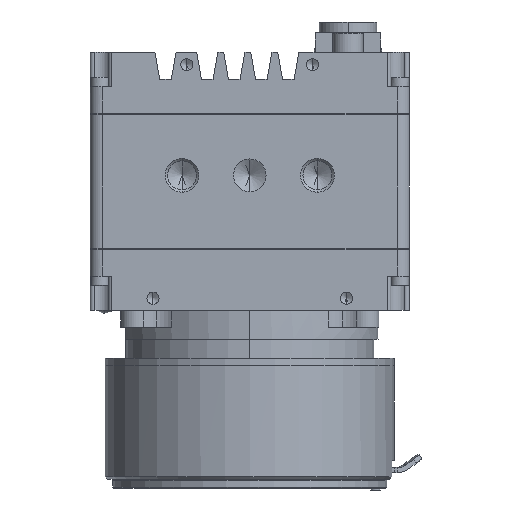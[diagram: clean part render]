
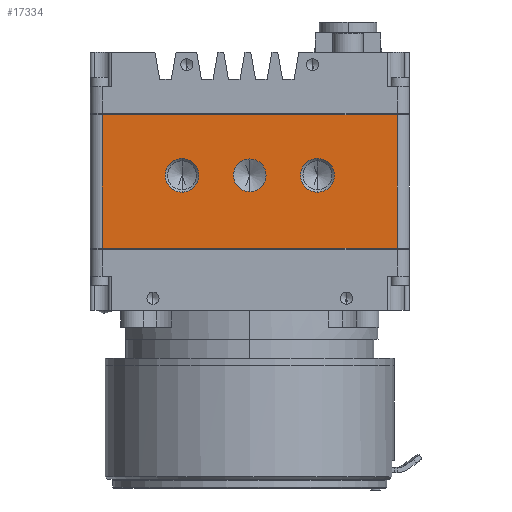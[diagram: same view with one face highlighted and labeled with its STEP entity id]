
A CAD part, front view. The second image highlights one B-rep face of the part: STEP entity #17334.
In plain terms, the highlighted planar face has unit normal (0, -1, 0).
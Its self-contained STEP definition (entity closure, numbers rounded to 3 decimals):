
#263 = DIRECTION ( 'NONE',  ( 0., 0., -1. ) ) ;
#671 = CARTESIAN_POINT ( 'NONE',  ( -30.48, -26.67, -27.813 ) ) ;
#704 = AXIS2_PLACEMENT_3D ( 'NONE', #1797, #1414, #5685 ) ;
#865 = CARTESIAN_POINT ( 'NONE',  ( 30.48, -26.67, -27.813 ) ) ;
#1337 = VECTOR ( 'NONE', #12713, 1000. ) ;
#1414 = DIRECTION ( 'NONE',  ( 0., -1., 0. ) ) ;
#1526 = EDGE_CURVE ( 'NONE', #19701, #24331, #6980, .T. ) ;
#1650 = DIRECTION ( 'NONE',  ( 0., 0., -1. ) ) ;
#1797 = CARTESIAN_POINT ( 'NONE',  ( 14., -26.67, -12.7 ) ) ;
#1988 = CIRCLE ( 'NONE', #3744, 3.5 ) ;
#2313 = CARTESIAN_POINT ( 'NONE',  ( -30.48, -26.67, -27.813 ) ) ;
#2556 = EDGE_CURVE ( 'NONE', #21562, #15502, #12477, .T. ) ;
#3744 = AXIS2_PLACEMENT_3D ( 'NONE', #12567, #27420, #14674 ) ;
#3810 = CARTESIAN_POINT ( 'NONE',  ( 14., -26.67, -9.2 ) ) ;
#4215 = DIRECTION ( 'NONE',  ( 0., 1., 0. ) ) ;
#4849 = LINE ( 'NONE', #2313, #26723 ) ;
#5224 = ORIENTED_EDGE ( 'NONE', *, *, #22664, .F. ) ;
#5685 = DIRECTION ( 'NONE',  ( 0., 0., -1. ) ) ;
#5755 = AXIS2_PLACEMENT_3D ( 'NONE', #10905, #23953, #263 ) ;
#5920 = CARTESIAN_POINT ( 'NONE',  ( -14., -26.67, -12.7 ) ) ;
#6021 = EDGE_CURVE ( 'NONE', #18173, #12819, #21576, .T. ) ;
#6623 = FACE_BOUND ( 'NONE', #22164, .T. ) ;
#6813 = AXIS2_PLACEMENT_3D ( 'NONE', #16346, #18202, #14114 ) ;
#6819 = EDGE_CURVE ( 'NONE', #24755, #23820, #13689, .T. ) ;
#6980 = LINE ( 'NONE', #14558, #1337 ) ;
#7040 = CARTESIAN_POINT ( 'NONE',  ( -30.48, -26.67, -0.127 ) ) ;
#7103 = VERTEX_POINT ( 'NONE', #16012 ) ;
#7118 = ORIENTED_EDGE ( 'NONE', *, *, #20341, .T. ) ;
#7809 = EDGE_LOOP ( 'NONE', ( #7118, #24861, #26505, #12846 ) ) ;
#8192 = EDGE_LOOP ( 'NONE', ( #5224, #21452 ) ) ;
#8579 = ORIENTED_EDGE ( 'NONE', *, *, #21310, .F. ) ;
#8584 = CARTESIAN_POINT ( 'NONE',  ( -14., -26.67, -9.2 ) ) ;
#9876 = CIRCLE ( 'NONE', #6813, 3.378 ) ;
#10866 = ORIENTED_EDGE ( 'NONE', *, *, #6021, .F. ) ;
#10905 = CARTESIAN_POINT ( 'NONE',  ( 0., -26.67, -12.7 ) ) ;
#12418 = DIRECTION ( 'NONE',  ( 0., 0., 1. ) ) ;
#12477 = LINE ( 'NONE', #24922, #25082 ) ;
#12556 = PLANE ( 'NONE',  #25528 ) ;
#12567 = CARTESIAN_POINT ( 'NONE',  ( 14., -26.67, -12.7 ) ) ;
#12713 = DIRECTION ( 'NONE',  ( 0., 0., -1. ) ) ;
#12819 = VERTEX_POINT ( 'NONE', #3810 ) ;
#12846 = ORIENTED_EDGE ( 'NONE', *, *, #2556, .T. ) ;
#12909 = FACE_BOUND ( 'NONE', #8192, .T. ) ;
#13575 = FACE_OUTER_BOUND ( 'NONE', #7809, .T. ) ;
#13689 = CIRCLE ( 'NONE', #16163, 3.5 ) ;
#13869 = CARTESIAN_POINT ( 'NONE',  ( 14., -26.67, -16.2 ) ) ;
#14114 = DIRECTION ( 'NONE',  ( 0., 0., -1. ) ) ;
#14225 = FACE_BOUND ( 'NONE', #24298, .T. ) ;
#14331 = EDGE_CURVE ( 'NONE', #23911, #7103, #9876, .T. ) ;
#14338 = CARTESIAN_POINT ( 'NONE',  ( -30.48, -26.67, -0.127 ) ) ;
#14558 = CARTESIAN_POINT ( 'NONE',  ( -30.48, -26.67, 0. ) ) ;
#14674 = DIRECTION ( 'NONE',  ( 0., 0., -1. ) ) ;
#15502 = VERTEX_POINT ( 'NONE', #22802 ) ;
#16012 = CARTESIAN_POINT ( 'NONE',  ( 0., -26.67, -16.078 ) ) ;
#16163 = AXIS2_PLACEMENT_3D ( 'NONE', #5920, #23140, #1650 ) ;
#16346 = CARTESIAN_POINT ( 'NONE',  ( 0., -26.67, -12.7 ) ) ;
#16485 = DIRECTION ( 'NONE',  ( -1., 0., 0. ) ) ;
#16517 = AXIS2_PLACEMENT_3D ( 'NONE', #16911, #25084, #27215 ) ;
#16864 = CARTESIAN_POINT ( 'NONE',  ( -14., -26.67, -16.2 ) ) ;
#16909 = DIRECTION ( 'NONE',  ( 0., 0., 1. ) ) ;
#16911 = CARTESIAN_POINT ( 'NONE',  ( -14., -26.67, -12.7 ) ) ;
#17176 = LINE ( 'NONE', #14338, #26459 ) ;
#17334 = ADVANCED_FACE ( 'NONE', ( #14225, #6623, #12909, #13575 ), #12556, .F. ) ;
#17524 = CARTESIAN_POINT ( 'NONE',  ( 0., -26.67, -9.322 ) ) ;
#17897 = EDGE_CURVE ( 'NONE', #21562, #24331, #4849, .T. ) ;
#18173 = VERTEX_POINT ( 'NONE', #13869 ) ;
#18202 = DIRECTION ( 'NONE',  ( 0., -1., 0. ) ) ;
#19056 = CIRCLE ( 'NONE', #16517, 3.5 ) ;
#19176 = DIRECTION ( 'NONE',  ( -1., 0., 0. ) ) ;
#19452 = CIRCLE ( 'NONE', #5755, 3.378 ) ;
#19701 = VERTEX_POINT ( 'NONE', #7040 ) ;
#20341 = EDGE_CURVE ( 'NONE', #15502, #19701, #17176, .T. ) ;
#20817 = ORIENTED_EDGE ( 'NONE', *, *, #26870, .F. ) ;
#21310 = EDGE_CURVE ( 'NONE', #23820, #24755, #19056, .T. ) ;
#21376 = CARTESIAN_POINT ( 'NONE',  ( -33.02, -26.67, 0. ) ) ;
#21452 = ORIENTED_EDGE ( 'NONE', *, *, #14331, .F. ) ;
#21562 = VERTEX_POINT ( 'NONE', #865 ) ;
#21576 = CIRCLE ( 'NONE', #704, 3.5 ) ;
#22164 = EDGE_LOOP ( 'NONE', ( #10866, #20817 ) ) ;
#22664 = EDGE_CURVE ( 'NONE', #7103, #23911, #19452, .T. ) ;
#22802 = CARTESIAN_POINT ( 'NONE',  ( 30.48, -26.67, -0.127 ) ) ;
#23140 = DIRECTION ( 'NONE',  ( 0., -1., 0. ) ) ;
#23820 = VERTEX_POINT ( 'NONE', #8584 ) ;
#23911 = VERTEX_POINT ( 'NONE', #17524 ) ;
#23953 = DIRECTION ( 'NONE',  ( 0., -1., 0. ) ) ;
#24298 = EDGE_LOOP ( 'NONE', ( #25411, #8579 ) ) ;
#24331 = VERTEX_POINT ( 'NONE', #671 ) ;
#24755 = VERTEX_POINT ( 'NONE', #16864 ) ;
#24861 = ORIENTED_EDGE ( 'NONE', *, *, #1526, .T. ) ;
#24922 = CARTESIAN_POINT ( 'NONE',  ( 30.48, -26.67, 0. ) ) ;
#25082 = VECTOR ( 'NONE', #12418, 1000. ) ;
#25084 = DIRECTION ( 'NONE',  ( 0., -1., 0. ) ) ;
#25411 = ORIENTED_EDGE ( 'NONE', *, *, #6819, .F. ) ;
#25528 = AXIS2_PLACEMENT_3D ( 'NONE', #21376, #4215, #16909 ) ;
#26459 = VECTOR ( 'NONE', #16485, 1000. ) ;
#26505 = ORIENTED_EDGE ( 'NONE', *, *, #17897, .F. ) ;
#26723 = VECTOR ( 'NONE', #19176, 1000. ) ;
#26870 = EDGE_CURVE ( 'NONE', #12819, #18173, #1988, .T. ) ;
#27215 = DIRECTION ( 'NONE',  ( 0., 0., -1. ) ) ;
#27420 = DIRECTION ( 'NONE',  ( 0., -1., 0. ) ) ;
